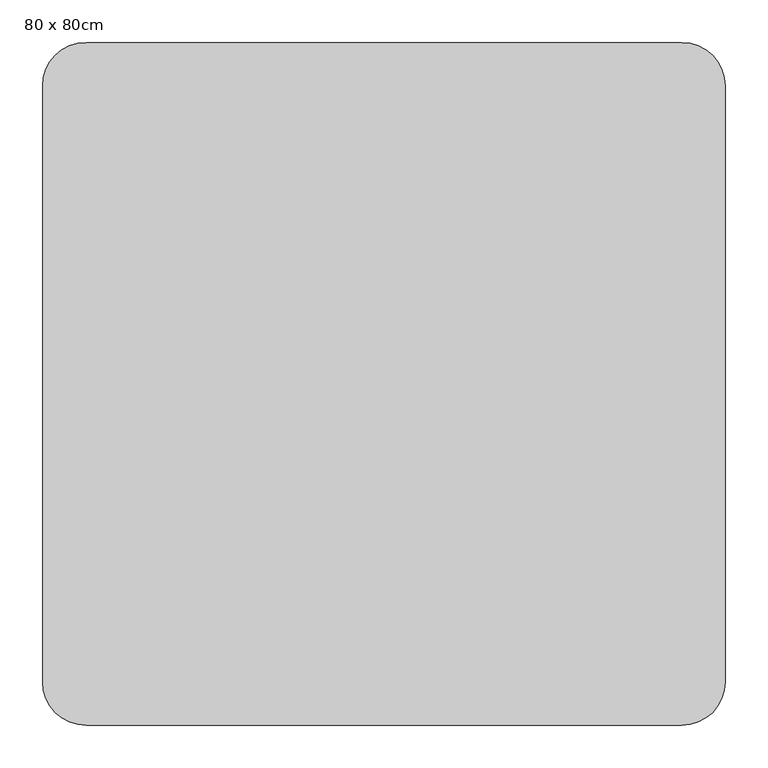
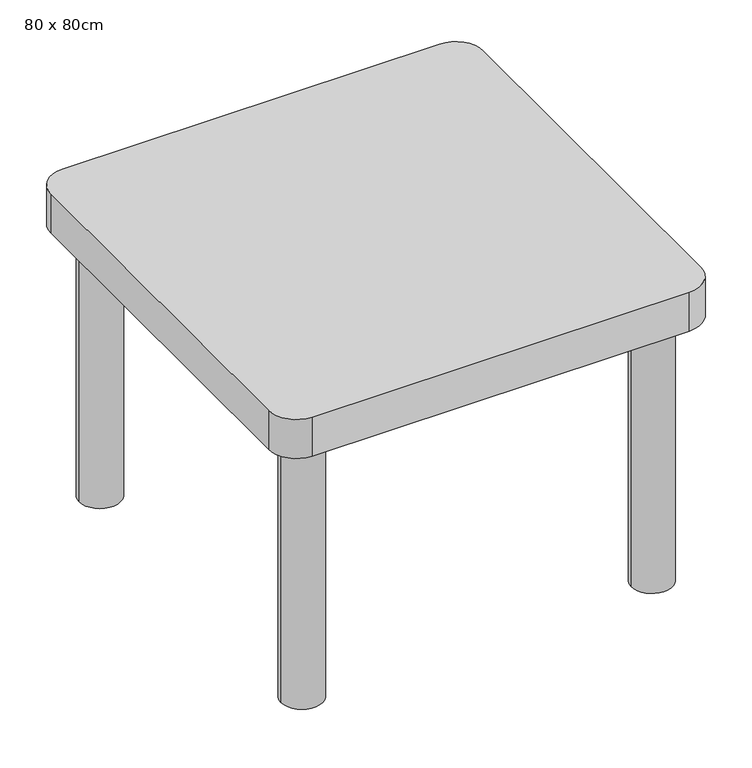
"""IFC4 building model written with IfcOpenShell, lengths in millimetres: furniture geometry, 桌 (3)-方型 : 80 x 80cm."""

from ifc_helpers import new_model, si_unit, point, frame, frame_2d, origin, origin_with_axes, place, context, project, spatial, polyline, circle_curve, trimmed, segment, composite_curve, outline, extrude, source, transform, mapped, element, save


def furniture_80_x_80cm_8d78c78c(model_context):
    return source(origin(), model_context, "Body", "SweptSolid", [
        extrude(outline(composite_curve([segment(polyline([(752.9336303, -247.6), (54.5336303, -247.6)]), True, "CONTINUOUS"), segment(trimmed(circle_curve(frame_2d((54.5336303, -196.8)), 50.8), [point((54.5336303, -247.6))], [point((3.7336303, -196.8))], False, "CARTESIAN"), True, "CONTINUOUS"), segment(polyline([(3.7336303, -196.8), (3.7336303, 501.6)]), True, "CONTINUOUS"), segment(trimmed(circle_curve(frame_2d((54.5336303, 501.6)), 50.8), [point((3.7336303, 501.6))], [point((54.5336303, 552.4))], False, "CARTESIAN"), True, "CONTINUOUS"), segment(polyline([(54.5336303, 552.4), (752.9336303, 552.4)]), True, "CONTINUOUS"), segment(trimmed(circle_curve(frame_2d((752.9336303, 501.6)), 50.8), [point((752.9336303, 552.4))], [point((803.7336303, 501.6))], False, "CARTESIAN"), True, "CONTINUOUS"), segment(polyline([(803.7336303, 501.6), (803.7336303, -196.8)]), True, "CONTINUOUS"), segment(trimmed(circle_curve(frame_2d((752.9336303, -196.8)), 50.8), [point((803.7336303, -196.8))], [point((752.9336303, -247.6))], False, "CARTESIAN"), True, "CONTINUOUS")], self_intersect=False)), frame((0.0, 0.0, 523.8), z_axis=(0.0, 0.0, 1.0), x_axis=(1.0, 0.0, 0.0)), (0.0, 0.0, 1.0), 76.2),
        extrude(outline(composite_curve([segment(trimmed(circle_curve(frame_2d((79.9336303, 476.2)), 38.1), [point((41.8336303, 476.2))], [point((118.0336303, 476.2))], False, "CARTESIAN"), True, "CONTINUOUS"), segment(trimmed(circle_curve(frame_2d((79.9336303, 476.2)), 38.1), [point((118.0336303, 476.2))], [point((41.8336303, 476.2))], False, "CARTESIAN"), True, "CONTINUOUS")], self_intersect=False)), origin_with_axes(), (0.0, 0.0, 1.0), 523.8),
        extrude(outline(composite_curve([segment(trimmed(circle_curve(frame_2d((79.9336303, -171.4)), 38.1), [point((41.8336303, -171.4))], [point((118.0336303, -171.4))], False, "CARTESIAN"), True, "CONTINUOUS"), segment(trimmed(circle_curve(frame_2d((79.9336303, -171.4)), 38.1), [point((118.0336303, -171.4))], [point((41.8336303, -171.4))], False, "CARTESIAN"), True, "CONTINUOUS")], self_intersect=False)), origin_with_axes(), (0.0, 0.0, 1.0), 523.8),
        extrude(outline(composite_curve([segment(trimmed(circle_curve(frame_2d((727.5336303, -171.4)), 38.1), [point((689.4336303, -171.4))], [point((765.6336303, -171.4))], False, "CARTESIAN"), True, "CONTINUOUS"), segment(trimmed(circle_curve(frame_2d((727.5336303, -171.4)), 38.1), [point((765.6336303, -171.4))], [point((689.4336303, -171.4))], False, "CARTESIAN"), True, "CONTINUOUS")], self_intersect=False)), origin_with_axes(), (0.0, 0.0, 1.0), 523.8),
        extrude(outline(composite_curve([segment(trimmed(circle_curve(frame_2d((727.5336303, 476.2)), 38.1), [point((689.4336303, 476.2))], [point((765.6336303, 476.2))], False, "CARTESIAN"), True, "CONTINUOUS"), segment(trimmed(circle_curve(frame_2d((727.5336303, 476.2)), 38.1), [point((765.6336303, 476.2))], [point((689.4336303, 476.2))], False, "CARTESIAN"), True, "CONTINUOUS")], self_intersect=False)), origin_with_axes(), (0.0, 0.0, 1.0), 523.8),
    ])


if __name__ == "__main__":
    model = new_model("IFC4")
    model_context = context("Model", 3, world=origin())
    ifc_project = project(units=[si_unit("LENGTHUNIT", "METRE", prefix="MILLI")], contexts=[model_context])
    site = spatial("IfcSite", under=ifc_project)
    building = spatial("IfcBuilding", under=site)
    placement = place(None, origin())
    furniture_80_x_80cm_shape = furniture_80_x_80cm_8d78c78c(model_context)
    element("IfcFurniture", 1, ObjectType="桌 (3)-方型 : 80 x 80cm", at=placement, inside=building, context=model_context, shape_type="MappedRepresentation", body=[
        mapped(furniture_80_x_80cm_shape, transform((0.0, 0.0, 0.0), x_axis=(1.0, 0.0, 0.0), y_axis=(0.0, 1.0, 0.0), z_axis=(0.0, 0.0, 1.0))),
    ])
    save(model, "model.ifc")
